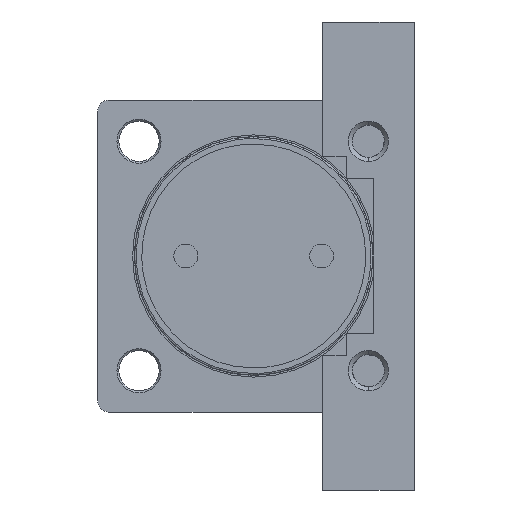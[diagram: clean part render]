
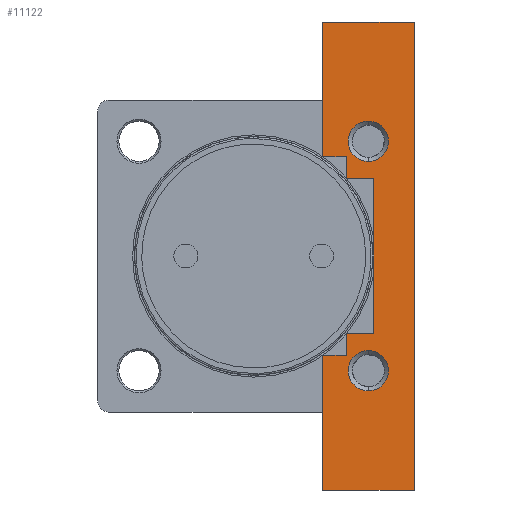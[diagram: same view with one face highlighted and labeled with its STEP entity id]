
A CAD part, left-side view. The second image highlights one B-rep face of the part: STEP entity #11122.
In plain terms, the highlighted planar face has unit normal (1, 0, 0).
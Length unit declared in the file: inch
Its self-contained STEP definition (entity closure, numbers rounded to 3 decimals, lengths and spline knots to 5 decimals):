
#634 = ORIENTED_EDGE ( 'NONE', *, *, #4858, .T. ) ;
#676 = DIRECTION ( 'NONE',  ( 0., 1., 0. ) ) ;
#725 = CARTESIAN_POINT ( 'NONE',  ( -3.01181, -3.44488, 2.12598 ) ) ;
#800 = LINE ( 'NONE', #4054, #9811 ) ;
#907 = CARTESIAN_POINT ( 'NONE',  ( -3.01181, -1.47638, -5.01969 ) ) ;
#966 = LINE ( 'NONE', #725, #14591 ) ;
#1446 = CARTESIAN_POINT ( 'NONE',  ( -3.01181, -3.44488, -5.01969 ) ) ;
#1594 = VERTEX_POINT ( 'NONE', #2780 ) ;
#1671 = EDGE_CURVE ( 'NONE', #1594, #14455, #11923, .T. ) ;
#1673 = LINE ( 'NONE', #7452, #13351 ) ;
#1717 = DIRECTION ( 'NONE',  ( 0., 0., 1. ) ) ;
#1732 = VERTEX_POINT ( 'NONE', #4659 ) ;
#1746 = EDGE_CURVE ( 'NONE', #9217, #1732, #11535, .T. ) ;
#1787 = VECTOR ( 'NONE', #14565, 39.37008 ) ;
#1943 = DIRECTION ( 'NONE',  ( -1., 0., 0. ) ) ;
#2035 = CARTESIAN_POINT ( 'NONE',  ( -3.01181, -1.98819, 2.12598 ) ) ;
#2451 = CARTESIAN_POINT ( 'NONE',  ( -3.01181, -1.98819, -1.65354 ) ) ;
#2606 = ORIENTED_EDGE ( 'NONE', *, *, #7699, .T. ) ;
#2727 = DIRECTION ( 'NONE',  ( 0., 0., -1. ) ) ;
#2769 = VERTEX_POINT ( 'NONE', #2035 ) ;
#2780 = CARTESIAN_POINT ( 'NONE',  ( -3.01181, -2.46063, -2.8937 ) ) ;
#2929 = CARTESIAN_POINT ( 'NONE',  ( -3.01181, -1.98819, 1.65354 ) ) ;
#2936 = ORIENTED_EDGE ( 'NONE', *, *, #7354, .T. ) ;
#3078 = EDGE_CURVE ( 'NONE', #14455, #1594, #4966, .T. ) ;
#3127 = DIRECTION ( 'NONE',  ( -1., 0., 0. ) ) ;
#3333 = CARTESIAN_POINT ( 'NONE',  ( -3.01181, -1.47638, 2.12598 ) ) ;
#3892 = LINE ( 'NONE', #1446, #9908 ) ;
#3935 = FACE_OUTER_BOUND ( 'NONE', #14704, .T. ) ;
#4054 = CARTESIAN_POINT ( 'NONE',  ( -3.01181, -1.47638, 5.01969 ) ) ;
#4094 = DIRECTION ( 'NONE',  ( 0., 0., 1. ) ) ;
#4352 = CARTESIAN_POINT ( 'NONE',  ( -3.01181, -1.98819, 5.01969 ) ) ;
#4473 = AXIS2_PLACEMENT_3D ( 'NONE', #9905, #3127, #11050 ) ;
#4515 = DIRECTION ( 'NONE',  ( 0., 1., 0. ) ) ;
#4659 = CARTESIAN_POINT ( 'NONE',  ( -3.01181, -1.47638, -2.12598 ) ) ;
#4801 = PLANE ( 'NONE',  #8778 ) ;
#4819 = VERTEX_POINT ( 'NONE', #11873 ) ;
#4849 = LINE ( 'NONE', #10220, #7513 ) ;
#4858 = EDGE_CURVE ( 'NONE', #9064, #2769, #1673, .T. ) ;
#4966 = CIRCLE ( 'NONE', #4473, 0.43307 ) ;
#5191 = DIRECTION ( 'NONE',  ( 0., 0., 1. ) ) ;
#5456 = AXIS2_PLACEMENT_3D ( 'NONE', #8707, #1943, #9849 ) ;
#5645 = CARTESIAN_POINT ( 'NONE',  ( -3.01181, -1.47638, 5.01969 ) ) ;
#5733 = DIRECTION ( 'NONE',  ( 0., 0., 1. ) ) ;
#5760 = VERTEX_POINT ( 'NONE', #12718 ) ;
#5975 = CARTESIAN_POINT ( 'NONE',  ( -3.01181, -3.44488, 5.01969 ) ) ;
#6207 = EDGE_LOOP ( 'NONE', ( #9471, #10234 ) ) ;
#6246 = EDGE_CURVE ( 'NONE', #5760, #10007, #12999, .T. ) ;
#6373 = EDGE_CURVE ( 'NONE', #2769, #7692, #966, .T. ) ;
#6395 = ORIENTED_EDGE ( 'NONE', *, *, #9325, .T. ) ;
#6553 = FACE_BOUND ( 'NONE', #6207, .T. ) ;
#6602 = DIRECTION ( 'NONE',  ( -1., 0., 0. ) ) ;
#7077 = CARTESIAN_POINT ( 'NONE',  ( -3.01181, -2.46063, -2.02756 ) ) ;
#7341 = VERTEX_POINT ( 'NONE', #2451 ) ;
#7354 = EDGE_CURVE ( 'NONE', #7692, #10717, #800, .T. ) ;
#7452 = CARTESIAN_POINT ( 'NONE',  ( -3.01181, -1.98819, 5.01969 ) ) ;
#7513 = VECTOR ( 'NONE', #7943, 39.37008 ) ;
#7556 = EDGE_LOOP ( 'NONE', ( #9741, #12025 ) ) ;
#7676 = EDGE_CURVE ( 'NONE', #10717, #10007, #13358, .T. ) ;
#7692 = VERTEX_POINT ( 'NONE', #3333 ) ;
#7699 = EDGE_CURVE ( 'NONE', #8729, #9064, #9627, .T. ) ;
#7744 = CARTESIAN_POINT ( 'NONE',  ( -3.01181, -2.46063, -2.46063 ) ) ;
#7770 = CARTESIAN_POINT ( 'NONE',  ( -3.01181, -2.57874, 5.01969 ) ) ;
#7783 = LINE ( 'NONE', #7770, #1787 ) ;
#7791 = DIRECTION ( 'NONE',  ( 0., -1., 0. ) ) ;
#7943 = DIRECTION ( 'NONE',  ( 0., -1., 0. ) ) ;
#8065 = CARTESIAN_POINT ( 'NONE',  ( -3.01181, -2.57874, 1.65354 ) ) ;
#8358 = ORIENTED_EDGE ( 'NONE', *, *, #6246, .F. ) ;
#8474 = CARTESIAN_POINT ( 'NONE',  ( -3.01181, -3.44488, 5.01969 ) ) ;
#8707 = CARTESIAN_POINT ( 'NONE',  ( -3.01181, -2.46063, 2.46063 ) ) ;
#8729 = VERTEX_POINT ( 'NONE', #8065 ) ;
#8750 = VECTOR ( 'NONE', #12381, 39.37008 ) ;
#8759 = CARTESIAN_POINT ( 'NONE',  ( -3.01181, -2.46063, 2.8937 ) ) ;
#8768 = EDGE_CURVE ( 'NONE', #7341, #10798, #10356, .T. ) ;
#8778 = AXIS2_PLACEMENT_3D ( 'NONE', #14016, #9500, #2727 ) ;
#8886 = VECTOR ( 'NONE', #5733, 39.37008 ) ;
#9064 = VERTEX_POINT ( 'NONE', #2929 ) ;
#9203 = CARTESIAN_POINT ( 'NONE',  ( -3.01181, -2.57874, -1.65354 ) ) ;
#9217 = VERTEX_POINT ( 'NONE', #907 ) ;
#9233 = CARTESIAN_POINT ( 'NONE',  ( -3.01181, -3.44488, -1.65354 ) ) ;
#9325 = EDGE_CURVE ( 'NONE', #4819, #7341, #12136, .T. ) ;
#9388 = ORIENTED_EDGE ( 'NONE', *, *, #1746, .T. ) ;
#9471 = ORIENTED_EDGE ( 'NONE', *, *, #3078, .T. ) ;
#9500 = DIRECTION ( 'NONE',  ( 1., 0., 0. ) ) ;
#9597 = VERTEX_POINT ( 'NONE', #13802 ) ;
#9627 = LINE ( 'NONE', #11305, #9974 ) ;
#9741 = ORIENTED_EDGE ( 'NONE', *, *, #11377, .T. ) ;
#9811 = VECTOR ( 'NONE', #5191, 39.37008 ) ;
#9838 = ORIENTED_EDGE ( 'NONE', *, *, #8768, .T. ) ;
#9849 = DIRECTION ( 'NONE',  ( 0., 0., 1. ) ) ;
#9897 = EDGE_CURVE ( 'NONE', #1732, #4819, #4849, .T. ) ;
#9905 = CARTESIAN_POINT ( 'NONE',  ( -3.01181, -2.46063, -2.46063 ) ) ;
#9908 = VECTOR ( 'NONE', #10089, 39.37008 ) ;
#9967 = VECTOR ( 'NONE', #1717, 39.37008 ) ;
#9974 = VECTOR ( 'NONE', #4515, 39.37008 ) ;
#9989 = DIRECTION ( 'NONE',  ( 0., 0., 1. ) ) ;
#10007 = VERTEX_POINT ( 'NONE', #5975 ) ;
#10016 = AXIS2_PLACEMENT_3D ( 'NONE', #13425, #6602, #14560 ) ;
#10089 = DIRECTION ( 'NONE',  ( 0., 1., 0. ) ) ;
#10161 = AXIS2_PLACEMENT_3D ( 'NONE', #7744, #13899, #9989 ) ;
#10220 = CARTESIAN_POINT ( 'NONE',  ( -3.01181, -3.44488, -2.12598 ) ) ;
#10234 = ORIENTED_EDGE ( 'NONE', *, *, #1671, .T. ) ;
#10262 = CIRCLE ( 'NONE', #10016, 0.43307 ) ;
#10356 = LINE ( 'NONE', #9233, #13034 ) ;
#10392 = DIRECTION ( 'NONE',  ( 0., -1., 0. ) ) ;
#10446 = ORIENTED_EDGE ( 'NONE', *, *, #12078, .T. ) ;
#10713 = ORIENTED_EDGE ( 'NONE', *, *, #7676, .T. ) ;
#10717 = VERTEX_POINT ( 'NONE', #11842 ) ;
#10798 = VERTEX_POINT ( 'NONE', #9203 ) ;
#11050 = DIRECTION ( 'NONE',  ( 0., 0., 1. ) ) ;
#11122 = ADVANCED_FACE ( 'NONE', ( #12597, #6553, #3935 ), #4801, .T. ) ;
#11305 = CARTESIAN_POINT ( 'NONE',  ( -3.01181, -3.44488, 1.65354 ) ) ;
#11377 = EDGE_CURVE ( 'NONE', #11993, #9597, #13501, .T. ) ;
#11535 = LINE ( 'NONE', #5645, #8886 ) ;
#11565 = EDGE_CURVE ( 'NONE', #9597, #11993, #10262, .T. ) ;
#11676 = EDGE_CURVE ( 'NONE', #5760, #9217, #3892, .T. ) ;
#11842 = CARTESIAN_POINT ( 'NONE',  ( -3.01181, -1.47638, 5.01969 ) ) ;
#11873 = CARTESIAN_POINT ( 'NONE',  ( -3.01181, -1.98819, -2.12598 ) ) ;
#11923 = CIRCLE ( 'NONE', #10161, 0.43307 ) ;
#11993 = VERTEX_POINT ( 'NONE', #8759 ) ;
#12025 = ORIENTED_EDGE ( 'NONE', *, *, #11565, .T. ) ;
#12078 = EDGE_CURVE ( 'NONE', #10798, #8729, #7783, .T. ) ;
#12136 = LINE ( 'NONE', #4352, #8750 ) ;
#12381 = DIRECTION ( 'NONE',  ( 0., 0., 1. ) ) ;
#12597 = FACE_BOUND ( 'NONE', #7556, .T. ) ;
#12718 = CARTESIAN_POINT ( 'NONE',  ( -3.01181, -3.44488, -5.01969 ) ) ;
#12999 = LINE ( 'NONE', #8474, #9967 ) ;
#13006 = VECTOR ( 'NONE', #7791, 39.37008 ) ;
#13034 = VECTOR ( 'NONE', #10392, 39.37008 ) ;
#13088 = ORIENTED_EDGE ( 'NONE', *, *, #6373, .T. ) ;
#13351 = VECTOR ( 'NONE', #4094, 39.37008 ) ;
#13358 = LINE ( 'NONE', #13496, #13006 ) ;
#13425 = CARTESIAN_POINT ( 'NONE',  ( -3.01181, -2.46063, 2.46063 ) ) ;
#13496 = CARTESIAN_POINT ( 'NONE',  ( -3.01181, -3.44488, 5.01969 ) ) ;
#13501 = CIRCLE ( 'NONE', #5456, 0.43307 ) ;
#13802 = CARTESIAN_POINT ( 'NONE',  ( -3.01181, -2.46063, 2.02756 ) ) ;
#13869 = ORIENTED_EDGE ( 'NONE', *, *, #9897, .T. ) ;
#13899 = DIRECTION ( 'NONE',  ( -1., 0., 0. ) ) ;
#14016 = CARTESIAN_POINT ( 'NONE',  ( -3.01181, -3.44488, 5.01969 ) ) ;
#14247 = ORIENTED_EDGE ( 'NONE', *, *, #11676, .T. ) ;
#14455 = VERTEX_POINT ( 'NONE', #7077 ) ;
#14560 = DIRECTION ( 'NONE',  ( 0., 0., 1. ) ) ;
#14565 = DIRECTION ( 'NONE',  ( 0., 0., 1. ) ) ;
#14591 = VECTOR ( 'NONE', #676, 39.37008 ) ;
#14704 = EDGE_LOOP ( 'NONE', ( #13088, #2936, #10713, #8358, #14247, #9388, #13869, #6395, #9838, #10446, #2606, #634 ) ) ;
